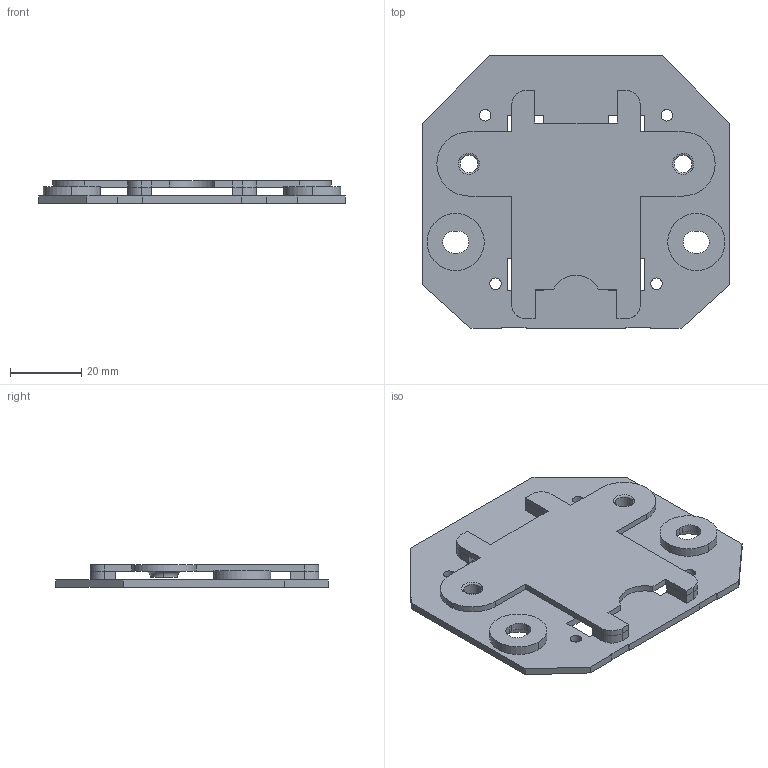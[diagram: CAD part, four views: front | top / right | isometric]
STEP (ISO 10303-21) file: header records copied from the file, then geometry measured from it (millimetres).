
FILE_DESCRIPTION(('CATIA V5 STEP Exchange'),'2;1');
FILE_NAME('\\bosch.com\dfsrb\DfsDE\DIV\BEG\MSD\Gruppen\MSDP\01_Austausch\!Limitierte Beschäftigte\Praktikanten\Raul_Montanez\Florian\Daempfer 1271 032 390.stp','2013-04-08T08:23:15+00:00',('none'),('none'),'CATIA Version 5 Release 19 SP 9 (IN-10)','CATIA V5 STEP AP214','none');
FILE_SCHEMA(('AUTOMOTIVE_DESIGN { 1 0 10303 214 1 1 1 1 }'));
Length unit declared in the file: millimetre
Products named in the file (8): Daempfen 1 271 032 390; Grundplatte; Platte; Rundteil; Verdindung_Oben_Recht; Verdindung_Oben_Links; Verbindung_Unter_Rechts; Verbindung_Unter_Links
Assembly tree (8 placements, depth 2):
  Daempfen 1 271 032 390
    Grundplatte
    Platte
    Rundteil  x2
    Verdindung_Oben_Recht
    Verdindung_Oben_Links
    Verbindung_Unter_Rechts
    Verbindung_Unter_Links
Bounding box: 86 x 76.54 x 6.27 mm (x, y, z)
Volume: 16314.7 mm3; surface area: 19382.9 mm2
Topology: 8 solids, 8 shells, 575 faces, 1639 edges, 1088 vertices
Faces by surface type: cylinder 461, plane 98, torus 12, sphere 4
Entity records: 17015 total; most frequent: ORIENTED_EDGE 3210, CARTESIAN_POINT 3012, DIRECTION 2283, EDGE_CURVE 1605, AXIS2_PLACEMENT_3D 1281, VERTEX_POINT 1068, CIRCLE 942, VECTOR 663
